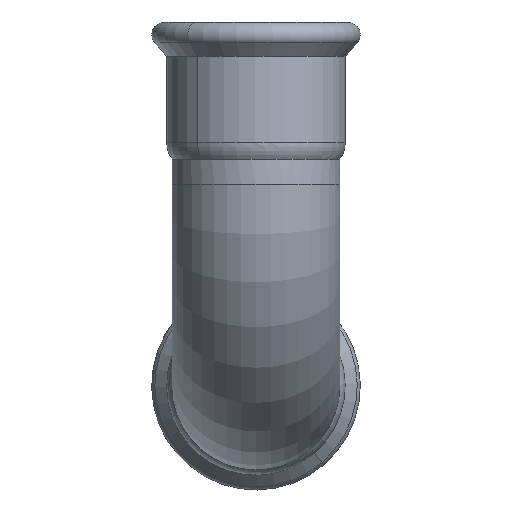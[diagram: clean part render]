
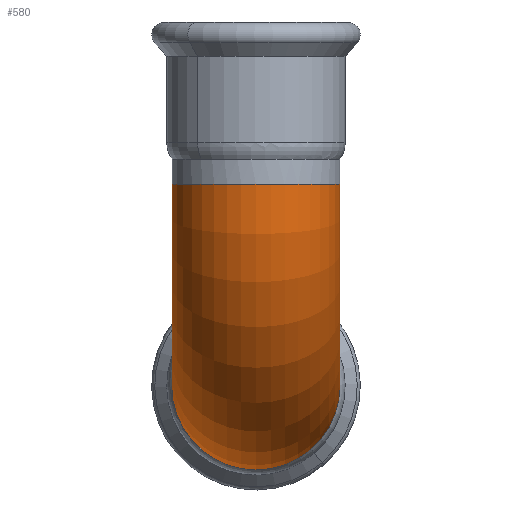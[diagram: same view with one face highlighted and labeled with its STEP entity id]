
A CAD part, left-side view. The second image highlights one B-rep face of the part: STEP entity #580.
In plain terms, the highlighted toroidal (fillet/blend) face has major radius 80 mm and minor radius 33.35 mm.
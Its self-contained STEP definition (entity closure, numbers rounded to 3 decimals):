
#10=CARTESIAN_POINT('',(0.033,0.,80.));
#20=DIRECTION('',(0.,1.,0.));
#30=DIRECTION('',(0.,0.,-1.));
#40=AXIS2_PLACEMENT_3D('',#10,#20,#30);
#50=TOROIDAL_SURFACE('',#40,80.,33.35);
#60=CARTESIAN_POINT('',(0.033,33.35,80.));
#70=DIRECTION('',(0.,1.,0.));
#80=DIRECTION('',(0.,0.,-1.));
#90=AXIS2_PLACEMENT_3D('',#60,#70,#80);
#100=CIRCLE('',#90,80.);
#110=CARTESIAN_POINT('',(0.033,33.35,0.));
#120=VERTEX_POINT('',#110);
#130=CARTESIAN_POINT('',(-79.967,33.35,80.));
#140=VERTEX_POINT('',#130);
#150=EDGE_CURVE('',#120,#140,#100,.T.);
#220=CARTESIAN_POINT('',(0.033,-33.35,0.
));
#230=VERTEX_POINT('',#220);
#260=CARTESIAN_POINT('',(0.033,-33.35,80.));
#270=DIRECTION('',(0.,1.,0.));
#280=DIRECTION('',(0.,0.,-1.));
#290=AXIS2_PLACEMENT_3D('',#260,#270,#280);
#300=CIRCLE('',#290,80.);
#310=CARTESIAN_POINT('',(-79.967,-33.35,80.));
#320=VERTEX_POINT('',#310);
#330=EDGE_CURVE('',#230,#320,#300,.T.);
#350=CARTESIAN_POINT('',(-79.967,0.,80.));
#360=DIRECTION('',(0.,0.,1.));
#370=DIRECTION('',(0.,1.,0.));
#380=AXIS2_PLACEMENT_3D('',#350,#360,#370);
#390=CIRCLE('',#380,33.35);
#450=EDGE_CURVE('',#140,#320,#390,.T.);
#460=ORIENTED_EDGE('',*,*,#450,.F.);
#470=ORIENTED_EDGE('',*,*,#330,.T.);
#480=CARTESIAN_POINT('',(0.033,0.,0.));
#490=DIRECTION('',(-1.,0.,0.));
#500=DIRECTION('',(0.,1.,0.));
#510=AXIS2_PLACEMENT_3D('',#480,#490,#500);
#520=CIRCLE('',#510,33.35);
#530=EDGE_CURVE('',#120,#230,#520,.T.);
#540=ORIENTED_EDGE('',*,*,#530,.T.);
#550=ORIENTED_EDGE('',*,*,#150,.F.);
#560=EDGE_LOOP('',(#550,#540,#470,#460));
#570=FACE_OUTER_BOUND('',#560,.T.);
#580=ADVANCED_FACE('',(#570),#50,.T.);
